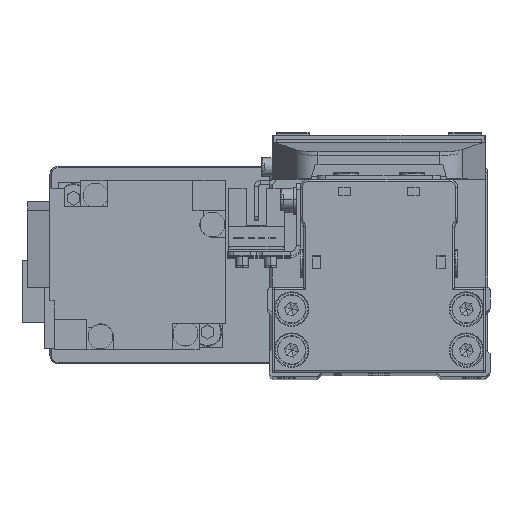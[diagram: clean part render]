
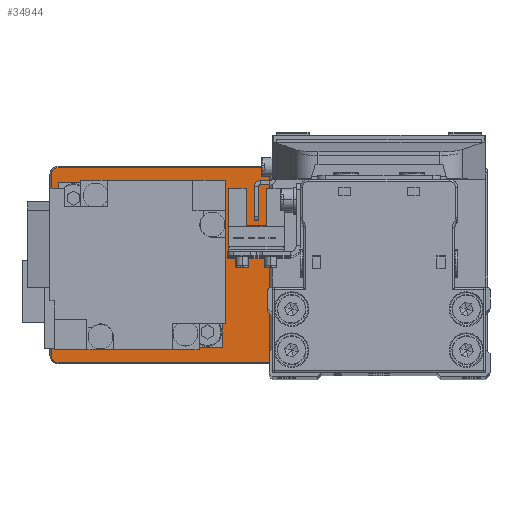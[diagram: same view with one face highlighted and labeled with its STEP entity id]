
A CAD part, top view. The second image highlights one B-rep face of the part: STEP entity #34944.
In plain terms, the highlighted planar face has unit normal (0, 0, 1).
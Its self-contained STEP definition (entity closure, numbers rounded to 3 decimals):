
#66 = DIRECTION ( 'NONE',  ( 1., 0., 0. ) ) ;
#108 = DIRECTION ( 'NONE',  ( 0., -1., 0. ) ) ;
#234 = CARTESIAN_POINT ( 'NONE',  ( 50., -23.7, 5. ) ) ;
#546 = CIRCLE ( 'NONE', #23069, 12.8 ) ;
#1153 = CIRCLE ( 'NONE', #23684, 12.8 ) ;
#1811 = DIRECTION ( 'NONE',  ( 0., 0., 1. ) ) ;
#1837 = ORIENTED_EDGE ( 'NONE', *, *, #13090, .T. ) ;
#2040 = DIRECTION ( 'NONE',  ( 1., 0., 0. ) ) ;
#2607 = DIRECTION ( 'NONE',  ( 0., 0., 1. ) ) ;
#2633 = ORIENTED_EDGE ( 'NONE', *, *, #30216, .T. ) ;
#3665 = CARTESIAN_POINT ( 'NONE',  ( 51.7, -22., 5. ) ) ;
#4836 = FACE_OUTER_BOUND ( 'NONE', #29789, .T. ) ;
#5106 = DIRECTION ( 'NONE',  ( 0., 0., 1. ) ) ;
#5918 = ORIENTED_EDGE ( 'NONE', *, *, #32534, .T. ) ;
#5974 = DIRECTION ( 'NONE',  ( 1., 0., 0. ) ) ;
#6055 = EDGE_CURVE ( 'NONE', #14179, #17537, #32879, .T. ) ;
#7690 = CARTESIAN_POINT ( 'NONE',  ( 42.8, 0., 5. ) ) ;
#8243 = AXIS2_PLACEMENT_3D ( 'NONE', #38082, #10445, #22739 ) ;
#8509 = VERTEX_POINT ( 'NONE', #38665 ) ;
#8834 = VERTEX_POINT ( 'NONE', #7690 ) ;
#9219 = LINE ( 'NONE', #21519, #36633 ) ;
#9660 = CIRCLE ( 'NONE', #32174, 10.3 ) ;
#10222 = CARTESIAN_POINT ( 'NONE',  ( -38.3, 0., 5. ) ) ;
#10445 = DIRECTION ( 'NONE',  ( 0., 0., 1. ) ) ;
#10745 = DIRECTION ( 'NONE',  ( 0., 0., -1. ) ) ;
#11208 = LINE ( 'NONE', #23503, #25170 ) ;
#11790 = ORIENTED_EDGE ( 'NONE', *, *, #12960, .T. ) ;
#12248 = EDGE_LOOP ( 'NONE', ( #24689, #38949 ) ) ;
#12440 = VERTEX_POINT ( 'NONE', #36643 ) ;
#12549 = ORIENTED_EDGE ( 'NONE', *, *, #26303, .T. ) ;
#12960 = EDGE_CURVE ( 'NONE', #17537, #24658, #15423, .T. ) ;
#13021 = CIRCLE ( 'NONE', #35552, 1.7 ) ;
#13090 = EDGE_CURVE ( 'NONE', #21688, #24953, #9660, .T. ) ;
#13389 = CARTESIAN_POINT ( 'NONE',  ( -28., 0., 5. ) ) ;
#13580 = EDGE_CURVE ( 'NONE', #8509, #34685, #35447, .T. ) ;
#13863 = CARTESIAN_POINT ( 'NONE',  ( 50., 22., 5. ) ) ;
#14111 = DIRECTION ( 'NONE',  ( 1., 0., 0. ) ) ;
#14179 = VERTEX_POINT ( 'NONE', #14633 ) ;
#14633 = CARTESIAN_POINT ( 'NONE',  ( -50., 23.7, 5. ) ) ;
#14906 = DIRECTION ( 'NONE',  ( 1., 0., 0. ) ) ;
#15320 = CIRCLE ( 'NONE', #37886, 10.3 ) ;
#15378 = LINE ( 'NONE', #27690, #31443 ) ;
#15423 = LINE ( 'NONE', #27735, #25737 ) ;
#15486 = EDGE_CURVE ( 'NONE', #34685, #14179, #11208, .T. ) ;
#15508 = AXIS2_PLACEMENT_3D ( 'NONE', #32727, #5106, #17415 ) ;
#15782 = CARTESIAN_POINT ( 'NONE',  ( 17.2, 0., 5. ) ) ;
#16101 = CARTESIAN_POINT ( 'NONE',  ( -51.7, 22., 5. ) ) ;
#16891 = EDGE_CURVE ( 'NONE', #28008, #35987, #13021, .T. ) ;
#17128 = PLANE ( 'NONE',  #38092 ) ;
#17360 = CARTESIAN_POINT ( 'NONE',  ( -28., 0., 5. ) ) ;
#17415 = DIRECTION ( 'NONE',  ( 1., 0., 0. ) ) ;
#17537 = VERTEX_POINT ( 'NONE', #16101 ) ;
#18057 = AXIS2_PLACEMENT_3D ( 'NONE', #13863, #26166, #38483 ) ;
#19621 = ORIENTED_EDGE ( 'NONE', *, *, #13580, .T. ) ;
#20175 = FACE_BOUND ( 'NONE', #12248, .T. ) ;
#20423 = CARTESIAN_POINT ( 'NONE',  ( -17.7, 0., 5. ) ) ;
#20786 = ORIENTED_EDGE ( 'NONE', *, *, #15486, .T. ) ;
#20958 = CARTESIAN_POINT ( 'NONE',  ( 50., -22., 5. ) ) ;
#21307 = CARTESIAN_POINT ( 'NONE',  ( 30., 0., 5. ) ) ;
#21519 = CARTESIAN_POINT ( 'NONE',  ( 51.7, 22., 5. ) ) ;
#21688 = VERTEX_POINT ( 'NONE', #10222 ) ;
#22739 = DIRECTION ( 'NONE',  ( 1., 0., 0. ) ) ;
#22993 = EDGE_CURVE ( 'NONE', #24658, #12440, #25640, .T. ) ;
#23052 = DIRECTION ( 'NONE',  ( 1., 0., 0. ) ) ;
#23069 = AXIS2_PLACEMENT_3D ( 'NONE', #21307, #33597, #5974 ) ;
#23211 = EDGE_CURVE ( 'NONE', #31284, #8834, #546, .T. ) ;
#23503 = CARTESIAN_POINT ( 'NONE',  ( -50., 23.7, 5. ) ) ;
#23684 = AXIS2_PLACEMENT_3D ( 'NONE', #38391, #10745, #23052 ) ;
#24658 = VERTEX_POINT ( 'NONE', #37011 ) ;
#24689 = ORIENTED_EDGE ( 'NONE', *, *, #26075, .T. ) ;
#24953 = VERTEX_POINT ( 'NONE', #20423 ) ;
#25170 = VECTOR ( 'NONE', #35817, 1000. ) ;
#25640 = CIRCLE ( 'NONE', #8243, 1.7 ) ;
#25687 = DIRECTION ( 'NONE',  ( 0., 0., -1. ) ) ;
#25737 = VECTOR ( 'NONE', #108, 1000. ) ;
#26075 = EDGE_CURVE ( 'NONE', #8834, #31284, #1153, .T. ) ;
#26166 = DIRECTION ( 'NONE',  ( 0., 0., 1. ) ) ;
#26303 = EDGE_CURVE ( 'NONE', #12440, #28008, #15378, .T. ) ;
#27690 = CARTESIAN_POINT ( 'NONE',  ( 50., -23.7, 5. ) ) ;
#27735 = CARTESIAN_POINT ( 'NONE',  ( -51.7, -22., 5. ) ) ;
#28008 = VERTEX_POINT ( 'NONE', #234 ) ;
#29404 = ORIENTED_EDGE ( 'NONE', *, *, #6055, .T. ) ;
#29433 = CARTESIAN_POINT ( 'NONE',  ( 0., 0., 5. ) ) ;
#29666 = DIRECTION ( 'NONE',  ( 0., 0., -1. ) ) ;
#29789 = EDGE_LOOP ( 'NONE', ( #12549, #31492, #5918, #19621, #20786, #29404, #11790, #38302 ) ) ;
#30216 = EDGE_CURVE ( 'NONE', #24953, #21688, #15320, .T. ) ;
#31284 = VERTEX_POINT ( 'NONE', #15782 ) ;
#31443 = VECTOR ( 'NONE', #66, 1000. ) ;
#31492 = ORIENTED_EDGE ( 'NONE', *, *, #16891, .T. ) ;
#32174 = AXIS2_PLACEMENT_3D ( 'NONE', #13389, #25687, #38010 ) ;
#32464 = FACE_BOUND ( 'NONE', #39574, .T. ) ;
#32534 = EDGE_CURVE ( 'NONE', #35987, #8509, #9219, .T. ) ;
#32727 = CARTESIAN_POINT ( 'NONE',  ( -50., 22., 5. ) ) ;
#32879 = CIRCLE ( 'NONE', #15508, 1.7 ) ;
#33597 = DIRECTION ( 'NONE',  ( 0., 0., -1. ) ) ;
#33719 = CARTESIAN_POINT ( 'NONE',  ( 50., 23.7, 5. ) ) ;
#33802 = DIRECTION ( 'NONE',  ( 0., 1., 0. ) ) ;
#34685 = VERTEX_POINT ( 'NONE', #33719 ) ;
#34944 = ADVANCED_FACE ( 'NONE', ( #20175, #32464, #4836 ), #17128, .T. ) ;
#35447 = CIRCLE ( 'NONE', #18057, 1.7 ) ;
#35552 = AXIS2_PLACEMENT_3D ( 'NONE', #20958, #2607, #14906 ) ;
#35817 = DIRECTION ( 'NONE',  ( -1., 0., 0. ) ) ;
#35987 = VERTEX_POINT ( 'NONE', #3665 ) ;
#36633 = VECTOR ( 'NONE', #33802, 1000. ) ;
#36643 = CARTESIAN_POINT ( 'NONE',  ( -50., -23.7, 5. ) ) ;
#37011 = CARTESIAN_POINT ( 'NONE',  ( -51.7, -22., 5. ) ) ;
#37886 = AXIS2_PLACEMENT_3D ( 'NONE', #17360, #29666, #2040 ) ;
#38010 = DIRECTION ( 'NONE',  ( 1., 0., 0. ) ) ;
#38082 = CARTESIAN_POINT ( 'NONE',  ( -50., -22., 5. ) ) ;
#38092 = AXIS2_PLACEMENT_3D ( 'NONE', #29433, #1811, #14111 ) ;
#38302 = ORIENTED_EDGE ( 'NONE', *, *, #22993, .T. ) ;
#38391 = CARTESIAN_POINT ( 'NONE',  ( 30., 0., 5. ) ) ;
#38483 = DIRECTION ( 'NONE',  ( 1., 0., 0. ) ) ;
#38665 = CARTESIAN_POINT ( 'NONE',  ( 51.7, 22., 5. ) ) ;
#38949 = ORIENTED_EDGE ( 'NONE', *, *, #23211, .T. ) ;
#39574 = EDGE_LOOP ( 'NONE', ( #2633, #1837 ) ) ;
